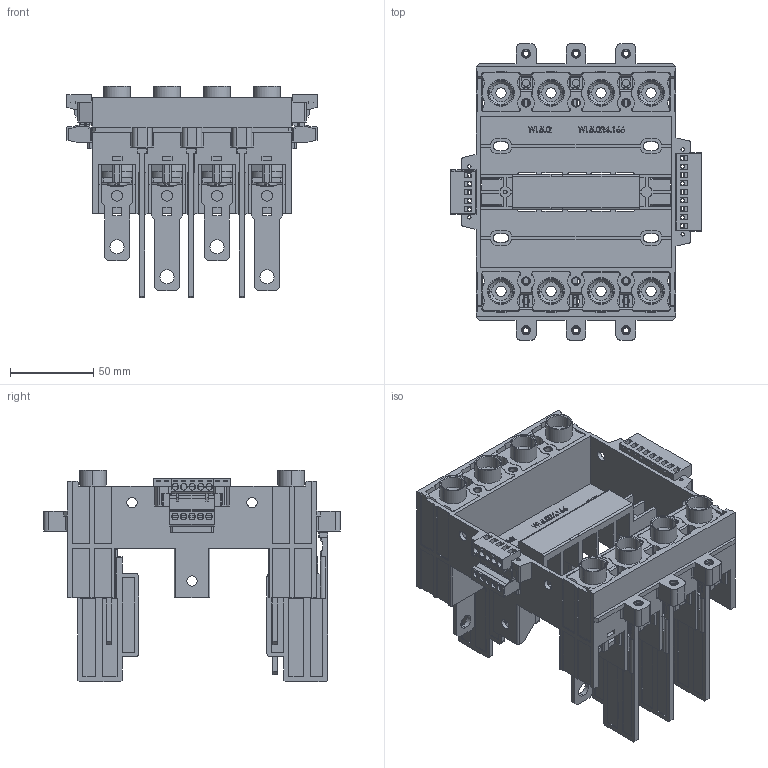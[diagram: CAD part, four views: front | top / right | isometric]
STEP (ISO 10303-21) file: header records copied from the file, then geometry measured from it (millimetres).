
FILE_DESCRIPTION (( 'STEP AP203' ), '1' );
FILE_NAME ('M5-160-4-P1RH.SLDPRT.STEP', '2024-11-05T01:18:58', ( 'A' ), ( '' ), 'SwSTEP 2.0', 'SolidWorks 2018', '' );
FILE_SCHEMA (( 'CONFIG_CONTROL_DESIGN' ));
Products named in the file (2): M5-160-4-P1RH.SLDPRT; M5-160-4-P1RH_2綴す
Assembly tree (1 placements, depth 2):
  M5-160-4-P1RH.SLDPRT
    M5-160-4-P1RH_2綴す
Bounding box: 150.2 x 178 x 127 mm (x, y, z)
Surface area: 241269.4 mm2 (no closed solid volume)
Topology: 0 solids, 111 shells, 2329 faces, 8948 edges, 6429 vertices
Faces by surface type: plane 1581, cylinder 670, cone 74, bspline 4
Entity records: 94945 total; most frequent: CARTESIAN_POINT 19616, DIRECTION 15366, ORIENTED_EDGE 14322, EDGE_CURVE 8944, VECTOR 6874, LINE 6874, VERTEX_POINT 6429, AXIS2_PLACEMENT_3D 4246
